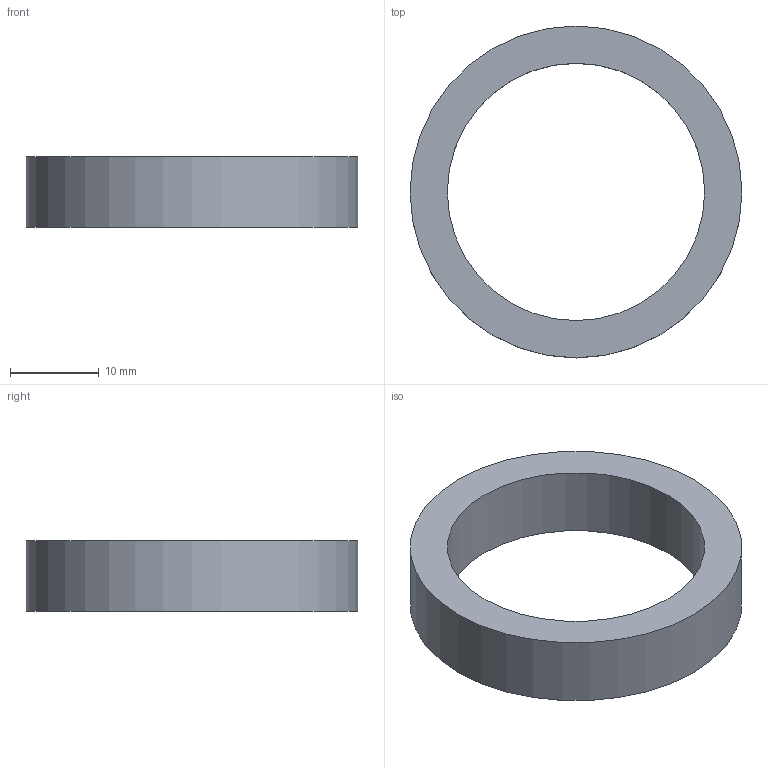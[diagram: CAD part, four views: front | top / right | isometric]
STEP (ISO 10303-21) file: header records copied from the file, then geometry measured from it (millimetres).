
FILE_DESCRIPTION(/* description */ (''),/* implementation_level */ '2;1');
FILE_NAME(/* name */ 'H:\Geberit-Teile\Export\379.783.00.0\stp\379783.stp',/* time_stamp */ '2015-04-15T11:26:43+02:00',/* author */ ('seihe2'),/* organization */ (''),/* preprocessor_version */ 'ST-DEVELOPER v15.2',/* originating_system */ 'Autodesk Inventor 2014',/* authorisation */ '');
FILE_SCHEMA (('AUTOMOTIVE_DESIGN { 1 0 10303 214 3 1 1 }'));
Length unit declared in the file: millimetre
Products named in the file (1): 379783
Bounding box: 37.4 x 37.4 x 8 mm (x, y, z)
Volume: 3504.5 mm3; surface area: 2544.9 mm2
Topology: 1 solids, 1 shells, 4 faces, 6 edges, 4 vertices
Faces by surface type: cylinder 2, plane 2
Full cylindrical faces by diameter (mm): 29 x1, 37.4 x1
Entity records: 113 total; most frequent: DIRECTION 18, CARTESIAN_POINT 13, AXIS2_PLACEMENT_3D 9, EDGE_LOOP 8, ORIENTED_EDGE 8, FACE_BOUND 6, STYLED_ITEM 5, CIRCLE 4
